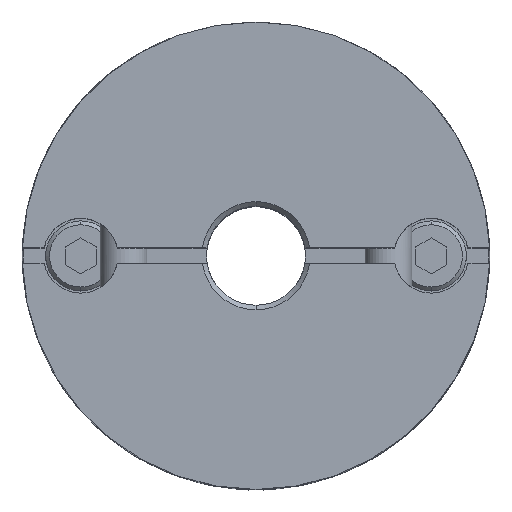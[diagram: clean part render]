
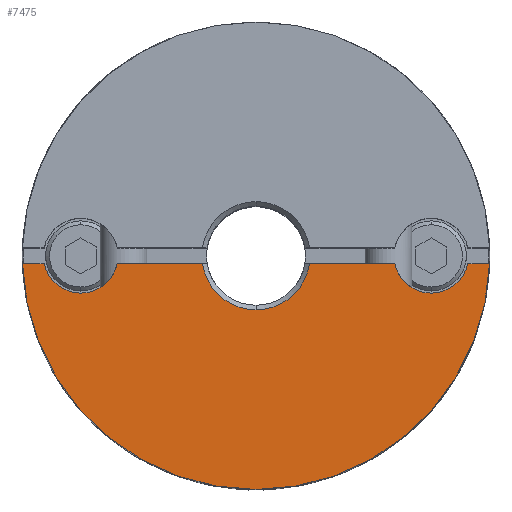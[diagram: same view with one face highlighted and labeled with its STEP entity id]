
A CAD part, top view. The second image highlights one B-rep face of the part: STEP entity #7475.
In plain terms, the highlighted planar face has unit normal (0, 0, 1).
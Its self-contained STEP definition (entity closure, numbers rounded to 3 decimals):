
#622=CARTESIAN_POINT('',(0.,-15.0,11.8));
#623=VERTEX_POINT('',#622);
#630=CARTESIAN_POINT('',(-14.992,-0.5,11.8));
#631=VERTEX_POINT('',#630);
#632=CARTESIAN_POINT('',(0.0,0.0,11.8));
#633=DIRECTION('',(0.0,0.0,-1.0));
#634=DIRECTION('',(0.0,1.0,0.0));
#635=AXIS2_PLACEMENT_3D('',#632,#633,#634);
#636=CIRCLE('',#635,15.0);
#637=EDGE_CURVE('',#623,#631,#636,.T.);
#1032=CARTESIAN_POINT('',(0.,-3.475,11.8));
#1033=VERTEX_POINT('',#1032);
#1041=CARTESIAN_POINT('',(-3.439,-0.5,11.8));
#1042=VERTEX_POINT('',#1041);
#1056=CARTESIAN_POINT('',(0.0,0.0,11.8));
#1057=DIRECTION('',(0.0,0.0,1.0));
#1058=DIRECTION('',(0.0,-1.0,0.0));
#1059=AXIS2_PLACEMENT_3D('',#1056,#1057,#1058);
#1060=CIRCLE('',#1059,3.475);
#1061=EDGE_CURVE('',#1042,#1033,#1060,.T.);
#1353=CARTESIAN_POINT('',(-11.25,-2.4,11.8));
#1354=VERTEX_POINT('',#1353);
#1370=CARTESIAN_POINT('',(-13.597,-0.5,11.8));
#1371=VERTEX_POINT('',#1370);
#1378=CARTESIAN_POINT('',(-11.25,0.,11.8));
#1379=DIRECTION('',(0.0,0.0,-1.0));
#1380=DIRECTION('',(0.0,1.0,0.0));
#1381=AXIS2_PLACEMENT_3D('',#1378,#1379,#1380);
#1382=CIRCLE('',#1381,2.4);
#1383=EDGE_CURVE('',#1354,#1371,#1382,.T.);
#1585=CARTESIAN_POINT('',(11.25,-2.4,11.8));
#1586=VERTEX_POINT('',#1585);
#1652=CARTESIAN_POINT('',(8.903,-0.5,11.8));
#1653=VERTEX_POINT('',#1652);
#1660=CARTESIAN_POINT('',(11.25,0.,11.8));
#1661=DIRECTION('',(0.0,0.0,-1.0));
#1662=DIRECTION('',(0.0,1.0,0.0));
#1663=AXIS2_PLACEMENT_3D('',#1660,#1661,#1662);
#1664=CIRCLE('',#1663,2.4);
#1665=EDGE_CURVE('',#1586,#1653,#1664,.T.);
#5973=CARTESIAN_POINT('',(13.597,-0.5,11.8));
#5974=VERTEX_POINT('',#5973);
#5975=CARTESIAN_POINT('',(11.25,0.,11.8));
#5976=DIRECTION('',(0.0,0.0,-1.0));
#5977=DIRECTION('',(0.0,1.0,0.0));
#5978=AXIS2_PLACEMENT_3D('',#5975,#5976,#5977);
#5979=CIRCLE('',#5978,2.4);
#5980=EDGE_CURVE('',#5974,#1586,#5979,.T.);
#6380=CARTESIAN_POINT('',(-8.903,-0.5,11.8));
#6381=VERTEX_POINT('',#6380);
#6382=CARTESIAN_POINT('',(-11.25,0.,11.8));
#6383=DIRECTION('',(0.0,0.0,-1.0));
#6384=DIRECTION('',(0.0,1.0,0.0));
#6385=AXIS2_PLACEMENT_3D('',#6382,#6383,#6384);
#6386=CIRCLE('',#6385,2.4);
#6387=EDGE_CURVE('',#6381,#1354,#6386,.T.);
#6510=CARTESIAN_POINT('',(-3.439,-0.5,11.8));
#6511=DIRECTION('',(-1.0,0.0,0.0));
#6512=VECTOR('',#6511,5.464);
#6513=LINE('',#6510,#6512);
#6514=EDGE_CURVE('',#1042,#6381,#6513,.T.);
#6627=CARTESIAN_POINT('',(3.439,-0.5,11.8));
#6628=VERTEX_POINT('',#6627);
#6642=CARTESIAN_POINT('',(8.903,-0.5,11.8));
#6643=DIRECTION('',(-1.0,0.0,0.0));
#6644=VECTOR('',#6643,5.464);
#6645=LINE('',#6642,#6644);
#6646=EDGE_CURVE('',#1653,#6628,#6645,.T.);
#7222=CARTESIAN_POINT('',(14.992,-0.5,11.8));
#7223=VERTEX_POINT('',#7222);
#7224=CARTESIAN_POINT('',(14.992,-0.5,11.8));
#7225=DIRECTION('',(-1.0,0.0,0.0));
#7226=VECTOR('',#7225,1.394);
#7227=LINE('',#7224,#7226);
#7228=EDGE_CURVE('',#7223,#5974,#7227,.T.);
#7342=CARTESIAN_POINT('',(-13.597,-0.5,11.8));
#7343=DIRECTION('',(-1.0,0.0,0.0));
#7344=VECTOR('',#7343,1.394);
#7345=LINE('',#7342,#7344);
#7346=EDGE_CURVE('',#1371,#631,#7345,.T.);
#7444=CARTESIAN_POINT('',(0.,1.364,11.8));
#7445=DIRECTION('',(0.0,0.0,1.0));
#7446=DIRECTION('',(0.0,1.0,0.0));
#7447=AXIS2_PLACEMENT_3D('',#7444,#7445,#7446);
#7448=PLANE('',#7447);
#7449=ORIENTED_EDGE('',*,*,#5980,.T.);
#7450=ORIENTED_EDGE('',*,*,#1665,.T.);
#7451=ORIENTED_EDGE('',*,*,#6646,.T.);
#7452=CARTESIAN_POINT('',(0.0,0.0,11.8));
#7453=DIRECTION('',(0.0,0.0,1.0));
#7454=DIRECTION('',(0.0,-1.0,0.0));
#7455=AXIS2_PLACEMENT_3D('',#7452,#7453,#7454);
#7456=CIRCLE('',#7455,3.475);
#7457=EDGE_CURVE('',#1033,#6628,#7456,.T.);
#7458=ORIENTED_EDGE('',*,*,#7457,.F.);
#7459=ORIENTED_EDGE('',*,*,#1061,.F.);
#7460=ORIENTED_EDGE('',*,*,#6514,.T.);
#7461=ORIENTED_EDGE('',*,*,#6387,.T.);
#7462=ORIENTED_EDGE('',*,*,#1383,.T.);
#7463=ORIENTED_EDGE('',*,*,#7346,.T.);
#7464=ORIENTED_EDGE('',*,*,#637,.F.);
#7465=CARTESIAN_POINT('',(0.0,0.0,11.8));
#7466=DIRECTION('',(0.0,0.0,-1.0));
#7467=DIRECTION('',(0.0,1.0,0.0));
#7468=AXIS2_PLACEMENT_3D('',#7465,#7466,#7467);
#7469=CIRCLE('',#7468,15.0);
#7470=EDGE_CURVE('',#7223,#623,#7469,.T.);
#7471=ORIENTED_EDGE('',*,*,#7470,.F.);
#7472=ORIENTED_EDGE('',*,*,#7228,.T.);
#7473=EDGE_LOOP('',(#7449,#7450,#7451,#7458,#7459,#7460,#7461,#7462,#7463,#7464,#7471,#7472));
#7474=FACE_OUTER_BOUND('',#7473,.T.);
#7475=ADVANCED_FACE('',(#7474),#7448,.T.);
